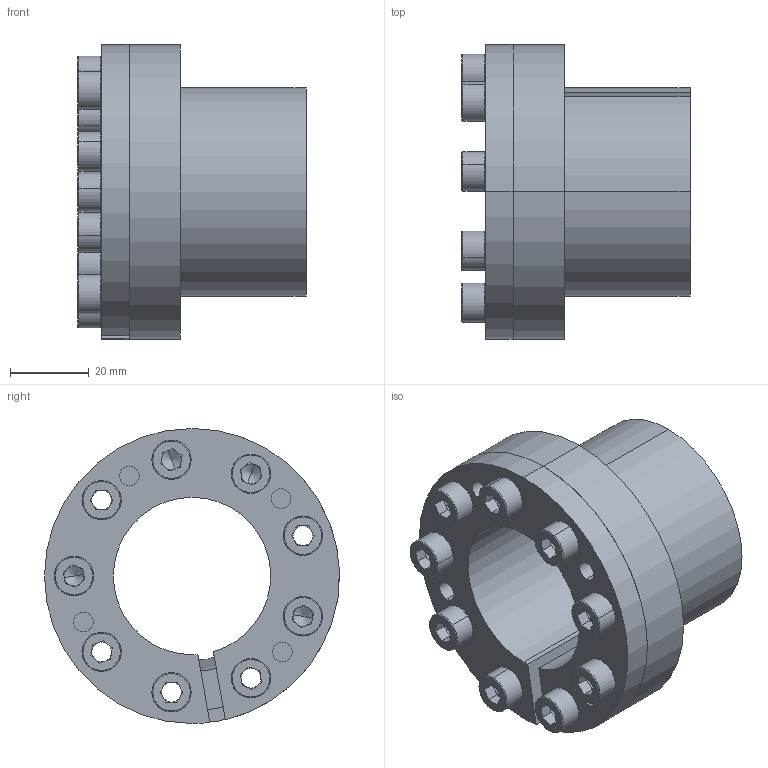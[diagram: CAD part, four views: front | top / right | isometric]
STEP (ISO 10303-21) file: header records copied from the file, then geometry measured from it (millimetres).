
FILE_DESCRIPTION (( 'STEP AP203' ), '1' );
FILE_NAME ('T-40-53.STEP', '2017-10-13T08:09:46', ( 'MYCOM' ), ( '' ), 'SwSTEP 2.0', 'SolidWorks 2015', '' );
FILE_SCHEMA (( 'CONFIG_CONTROL_DESIGN' ));
Length unit declared in the file: millimetre
Products named in the file (1): T-40-53
Bounding box: 58 x 75 x 75 mm (x, y, z)
Surface area: 48409.3 mm2 (no closed solid volume)
Topology: 0 solids, 12 shells, 252 faces, 656 edges, 406 vertices
Faces by surface type: plane 121, cylinder 81, torus 36, cone 14
Entity records: 7796 total; most frequent: DIRECTION 1466, CARTESIAN_POINT 1319, ORIENTED_EDGE 1202, EDGE_CURVE 648, AXIS2_PLACEMENT_3D 569, VERTEX_POINT 406, LINE 328, VECTOR 328
